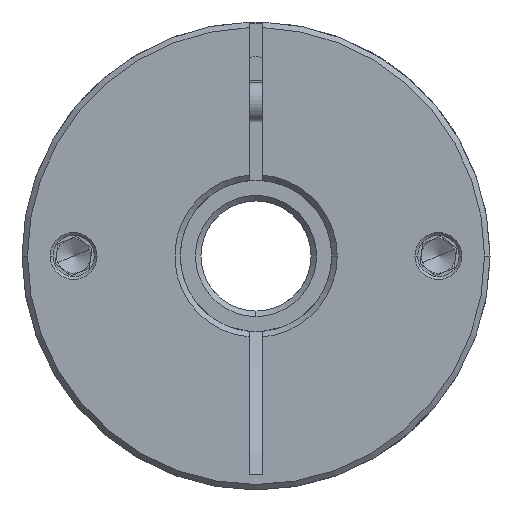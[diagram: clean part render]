
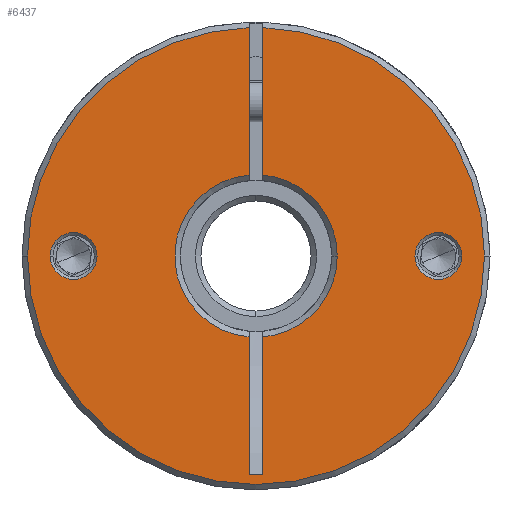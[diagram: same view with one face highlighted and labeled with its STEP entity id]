
A CAD part, front view. The second image highlights one B-rep face of the part: STEP entity #6437.
In plain terms, the highlighted planar face has unit normal (0, -1, 0).
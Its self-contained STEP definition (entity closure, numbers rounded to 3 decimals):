
#111 = AXIS2_PLACEMENT_3D ( 'NONE', #8411, #12558, #10617 ) ;
#291 = DIRECTION ( 'NONE',  ( 0., -1., 0. ) ) ;
#354 = VECTOR ( 'NONE', #9317, 1000. ) ;
#416 = EDGE_CURVE ( 'NONE', #12366, #6015, #1616, .T. ) ;
#491 = FACE_OUTER_BOUND ( 'NONE', #672, .T. ) ;
#497 = DIRECTION ( 'NONE',  ( 1., 0., 0. ) ) ;
#559 = CARTESIAN_POINT ( 'NONE',  ( 20.365, -47.045, 68. ) ) ;
#672 = EDGE_LOOP ( 'NONE', ( #11420, #9339, #11462, #4006, #13114, #8634, #11133, #12551, #4431, #11813, #13087 ) ) ;
#801 = DIRECTION ( 'NONE',  ( 1., 0., 0. ) ) ;
#956 = CIRCLE ( 'NONE', #3987, 11.8 ) ;
#1616 = LINE ( 'NONE', #9702, #10067 ) ;
#1651 = CARTESIAN_POINT ( 'NONE',  ( 9.065, -47.045, 68. ) ) ;
#1834 = LINE ( 'NONE', #5069, #354 ) ;
#1870 = EDGE_CURVE ( 'NONE', #8089, #6092, #8479, .T. ) ;
#1974 = CARTESIAN_POINT ( 'NONE',  ( -1.735, -47.045, 36.279 ) ) ;
#2069 = CARTESIAN_POINT ( 'NONE',  ( -1.735, -47.045, 68. ) ) ;
#2105 = VECTOR ( 'NONE', #12368, 1000. ) ;
#2250 = EDGE_CURVE ( 'NONE', #5182, #10385, #4334, .T. ) ;
#2332 = EDGE_CURVE ( 'NONE', #9029, #10385, #5291, .T. ) ;
#2399 = DIRECTION ( 'NONE',  ( 1., 0., 0. ) ) ;
#2421 = DIRECTION ( 'NONE',  ( 0., -1., 0. ) ) ;
#2607 = CARTESIAN_POINT ( 'NONE',  ( -1.735, -47.045, 68. ) ) ;
#2654 = AXIS2_PLACEMENT_3D ( 'NONE', #5326, #12492, #9500 ) ;
#2804 = VERTEX_POINT ( 'NONE', #7414 ) ;
#2845 = FACE_BOUND ( 'NONE', #11825, .T. ) ;
#3045 = VERTEX_POINT ( 'NONE', #1651 ) ;
#3073 = AXIS2_PLACEMENT_3D ( 'NONE', #9688, #5564, #4572 ) ;
#3317 = LINE ( 'NONE', #2069, #8686 ) ;
#3357 = VERTEX_POINT ( 'NONE', #9726 ) ;
#3934 = CARTESIAN_POINT ( 'NONE',  ( -3.735, -47.045, 36.279 ) ) ;
#3964 = CARTESIAN_POINT ( 'NONE',  ( -3.735, -47.045, 68. ) ) ;
#3987 = AXIS2_PLACEMENT_3D ( 'NONE', #5687, #9855, #8857 ) ;
#4006 = ORIENTED_EDGE ( 'NONE', *, *, #12971, .T. ) ;
#4117 = EDGE_CURVE ( 'NONE', #5182, #6015, #1834, .T. ) ;
#4254 = CARTESIAN_POINT ( 'NONE',  ( -25.835, -47.045, 68. ) ) ;
#4334 = CIRCLE ( 'NONE', #11780, 11.8 ) ;
#4431 = ORIENTED_EDGE ( 'NONE', *, *, #416, .T. ) ;
#4572 = DIRECTION ( 'NONE',  ( 1., 0., 0. ) ) ;
#4583 = AXIS2_PLACEMENT_3D ( 'NONE', #9105, #10161, #801 ) ;
#4608 = CIRCLE ( 'NONE', #4855, 33.2 ) ;
#4765 = CIRCLE ( 'NONE', #10012, 3.4 ) ;
#4780 = DIRECTION ( 'NONE',  ( 0., 1., 0. ) ) ;
#4855 = AXIS2_PLACEMENT_3D ( 'NONE', #8511, #291, #2399 ) ;
#4925 = EDGE_CURVE ( 'NONE', #3045, #3357, #9916, .T. ) ;
#4988 = ORIENTED_EDGE ( 'NONE', *, *, #8824, .T. ) ;
#5069 = CARTESIAN_POINT ( 'NONE',  ( -3.735, -47.045, 68. ) ) ;
#5079 = CARTESIAN_POINT ( 'NONE',  ( -35.935, -47.045, 68. ) ) ;
#5182 = VERTEX_POINT ( 'NONE', #12688 ) ;
#5199 = VERTEX_POINT ( 'NONE', #10616 ) ;
#5291 = LINE ( 'NONE', #3964, #2105 ) ;
#5326 = CARTESIAN_POINT ( 'NONE',  ( -2.735, -47.045, 68. ) ) ;
#5525 = EDGE_CURVE ( 'NONE', #5199, #10193, #4765, .T. ) ;
#5564 = DIRECTION ( 'NONE',  ( 0., 1., 0. ) ) ;
#5638 = DIRECTION ( 'NONE',  ( 1., 0., 0. ) ) ;
#5687 = CARTESIAN_POINT ( 'NONE',  ( -2.735, -47.045, 68. ) ) ;
#5854 = EDGE_CURVE ( 'NONE', #11084, #3045, #956, .T. ) ;
#5979 = CARTESIAN_POINT ( 'NONE',  ( -29.235, -47.045, 68. ) ) ;
#6015 = VERTEX_POINT ( 'NONE', #3934 ) ;
#6060 = CARTESIAN_POINT ( 'NONE',  ( 27.165, -47.045, 68. ) ) ;
#6092 = VERTEX_POINT ( 'NONE', #6060 ) ;
#6150 = EDGE_CURVE ( 'NONE', #6594, #11084, #10611, .T. ) ;
#6187 = ORIENTED_EDGE ( 'NONE', *, *, #5525, .T. ) ;
#6366 = DIRECTION ( 'NONE',  ( -1., 0., 0. ) ) ;
#6437 = ADVANCED_FACE ( 'NONE', ( #7763, #2845, #491 ), #13406, .T. ) ;
#6452 = DIRECTION ( 'NONE',  ( 0., -1., 0. ) ) ;
#6494 = AXIS2_PLACEMENT_3D ( 'NONE', #9624, #2421, #5638 ) ;
#6594 = VERTEX_POINT ( 'NONE', #7560 ) ;
#6713 = CIRCLE ( 'NONE', #111, 3.4 ) ;
#6727 = CIRCLE ( 'NONE', #2654, 33.2 ) ;
#7037 = DIRECTION ( 'NONE',  ( 0., 1., 0. ) ) ;
#7414 = CARTESIAN_POINT ( 'NONE',  ( 30.465, -47.045, 68. ) ) ;
#7560 = CARTESIAN_POINT ( 'NONE',  ( -1.735, -47.045, 101.185 ) ) ;
#7562 = CARTESIAN_POINT ( 'NONE',  ( -1.735, -47.045, 79.758 ) ) ;
#7597 = CIRCLE ( 'NONE', #6494, 33.2 ) ;
#7653 = ORIENTED_EDGE ( 'NONE', *, *, #8931, .T. ) ;
#7698 = CIRCLE ( 'NONE', #3073, 3.4 ) ;
#7762 = DIRECTION ( 'NONE',  ( 0., 0., -1. ) ) ;
#7763 = FACE_BOUND ( 'NONE', #12748, .T. ) ;
#7770 = VERTEX_POINT ( 'NONE', #5079 ) ;
#8002 = EDGE_CURVE ( 'NONE', #9029, #7770, #4608, .T. ) ;
#8087 = AXIS2_PLACEMENT_3D ( 'NONE', #9338, #6452, #12711 ) ;
#8089 = VERTEX_POINT ( 'NONE', #559 ) ;
#8306 = EDGE_CURVE ( 'NONE', #3357, #12366, #3317, .T. ) ;
#8411 = CARTESIAN_POINT ( 'NONE',  ( 23.765, -47.045, 68. ) ) ;
#8449 = EDGE_CURVE ( 'NONE', #7770, #2804, #6727, .T. ) ;
#8479 = CIRCLE ( 'NONE', #4583, 3.4 ) ;
#8511 = CARTESIAN_POINT ( 'NONE',  ( -2.735, -47.045, 68. ) ) ;
#8634 = ORIENTED_EDGE ( 'NONE', *, *, #5854, .T. ) ;
#8686 = VECTOR ( 'NONE', #13461, 1000. ) ;
#8824 = EDGE_CURVE ( 'NONE', #6092, #8089, #6713, .T. ) ;
#8857 = DIRECTION ( 'NONE',  ( 1., 0., 0. ) ) ;
#8931 = EDGE_CURVE ( 'NONE', #10193, #5199, #7698, .T. ) ;
#9029 = VERTEX_POINT ( 'NONE', #9599 ) ;
#9105 = CARTESIAN_POINT ( 'NONE',  ( 23.765, -47.045, 68. ) ) ;
#9110 = ORIENTED_EDGE ( 'NONE', *, *, #1870, .T. ) ;
#9317 = DIRECTION ( 'NONE',  ( 0., 0., -1. ) ) ;
#9338 = CARTESIAN_POINT ( 'NONE',  ( -2.735, -47.045, 68. ) ) ;
#9339 = ORIENTED_EDGE ( 'NONE', *, *, #8002, .T. ) ;
#9500 = DIRECTION ( 'NONE',  ( 1., 0., 0. ) ) ;
#9599 = CARTESIAN_POINT ( 'NONE',  ( -3.735, -47.045, 101.185 ) ) ;
#9624 = CARTESIAN_POINT ( 'NONE',  ( -2.735, -47.045, 68. ) ) ;
#9688 = CARTESIAN_POINT ( 'NONE',  ( -29.235, -47.045, 68. ) ) ;
#9702 = CARTESIAN_POINT ( 'NONE',  ( -3.735, -47.045, 36.279 ) ) ;
#9726 = CARTESIAN_POINT ( 'NONE',  ( -1.735, -47.045, 56.242 ) ) ;
#9855 = DIRECTION ( 'NONE',  ( 0., 1., 0. ) ) ;
#9916 = CIRCLE ( 'NONE', #10088, 11.8 ) ;
#10012 = AXIS2_PLACEMENT_3D ( 'NONE', #5979, #7037, #10225 ) ;
#10067 = VECTOR ( 'NONE', #6366, 1000. ) ;
#10088 = AXIS2_PLACEMENT_3D ( 'NONE', #12074, #4780, #497 ) ;
#10161 = DIRECTION ( 'NONE',  ( 0., 1., 0. ) ) ;
#10193 = VERTEX_POINT ( 'NONE', #4254 ) ;
#10225 = DIRECTION ( 'NONE',  ( 1., 0., 0. ) ) ;
#10385 = VERTEX_POINT ( 'NONE', #11940 ) ;
#10611 = LINE ( 'NONE', #2607, #12554 ) ;
#10616 = CARTESIAN_POINT ( 'NONE',  ( -32.635, -47.045, 68. ) ) ;
#10617 = DIRECTION ( 'NONE',  ( 1., 0., 0. ) ) ;
#10798 = DIRECTION ( 'NONE',  ( 1., 0., 0. ) ) ;
#10842 = DIRECTION ( 'NONE',  ( 0., 1., 0. ) ) ;
#11084 = VERTEX_POINT ( 'NONE', #7562 ) ;
#11133 = ORIENTED_EDGE ( 'NONE', *, *, #4925, .T. ) ;
#11420 = ORIENTED_EDGE ( 'NONE', *, *, #2332, .F. ) ;
#11462 = ORIENTED_EDGE ( 'NONE', *, *, #8449, .T. ) ;
#11780 = AXIS2_PLACEMENT_3D ( 'NONE', #11874, #10842, #10798 ) ;
#11813 = ORIENTED_EDGE ( 'NONE', *, *, #4117, .F. ) ;
#11825 = EDGE_LOOP ( 'NONE', ( #7653, #6187 ) ) ;
#11874 = CARTESIAN_POINT ( 'NONE',  ( -2.735, -47.045, 68. ) ) ;
#11940 = CARTESIAN_POINT ( 'NONE',  ( -3.735, -47.045, 79.758 ) ) ;
#12074 = CARTESIAN_POINT ( 'NONE',  ( -2.735, -47.045, 68. ) ) ;
#12366 = VERTEX_POINT ( 'NONE', #1974 ) ;
#12368 = DIRECTION ( 'NONE',  ( 0., 0., -1. ) ) ;
#12492 = DIRECTION ( 'NONE',  ( 0., -1., 0. ) ) ;
#12551 = ORIENTED_EDGE ( 'NONE', *, *, #8306, .T. ) ;
#12554 = VECTOR ( 'NONE', #7762, 1000. ) ;
#12558 = DIRECTION ( 'NONE',  ( 0., 1., 0. ) ) ;
#12688 = CARTESIAN_POINT ( 'NONE',  ( -3.735, -47.045, 56.242 ) ) ;
#12711 = DIRECTION ( 'NONE',  ( 1., 0., 0. ) ) ;
#12748 = EDGE_LOOP ( 'NONE', ( #4988, #9110 ) ) ;
#12971 = EDGE_CURVE ( 'NONE', #2804, #6594, #7597, .T. ) ;
#13087 = ORIENTED_EDGE ( 'NONE', *, *, #2250, .T. ) ;
#13114 = ORIENTED_EDGE ( 'NONE', *, *, #6150, .T. ) ;
#13406 = PLANE ( 'NONE',  #8087 ) ;
#13461 = DIRECTION ( 'NONE',  ( 0., 0., -1. ) ) ;
